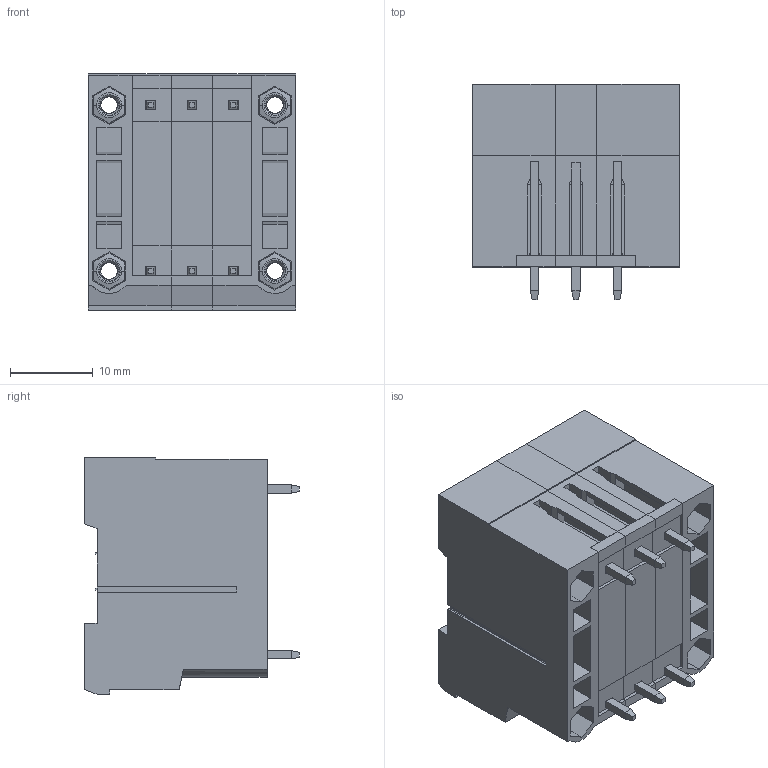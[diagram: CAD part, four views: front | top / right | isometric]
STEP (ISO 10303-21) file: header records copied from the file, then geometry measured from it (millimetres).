
FILE_DESCRIPTION((''),'2;1');
FILE_NAME('VL06_ASM_14_ASM','2022-06-15T',('renkang.li'),(''),'CREO PARAMETRIC BY PTC INC, 2016260','CREO PARAMETRIC BY PTC INC, 2016260','');
FILE_SCHEMA(('CONFIG_CONTROL_DESIGN'));
Length unit declared in the file: millimetre
Products named in the file (11): 000_032_4_1; 000_032_4_2; 000_032_4_ASM; D00055-1102A1_032_4; 002_032_5; 003_032_3; VL-PIN-180D_2; ZUO_4; YOU_4; NUT_3; VL06_ASM_14_ASM
Assembly tree (18 placements, depth 3):
  VL06_ASM_14_ASM
    000_032_4_ASM
      000_032_4_1
      000_032_4_2
    D00055-1102A1_032_4
    002_032_5
    003_032_3
    VL-PIN-180D_2  x6
    ZUO_4
    YOU_4
    NUT_3  x4
Bounding box: 25 x 25.9 x 28.5 mm (x, y, z)
Volume: 5897.2 mm3; surface area: 12628.8 mm2
Topology: 17 solids, 17 shells, 1227 faces, 3380 edges, 2202 vertices
Faces by surface type: plane 918, cylinder 181, cone 58, bspline 48, torus 22
Entity records: 31804 total; most frequent: CARTESIAN_POINT 8402, ORIENTED_EDGE 4982, DIRECTION 4618, EDGE_CURVE 2491, VECTOR 1986, LINE 1986, VERTEX_POINT 1630, AXIS2_PLACEMENT_3D 1316
